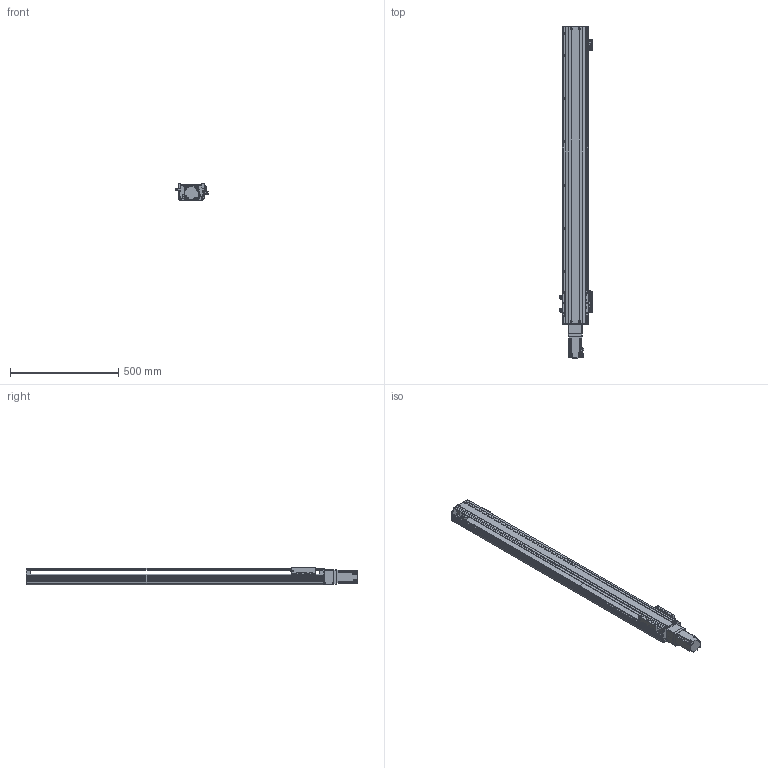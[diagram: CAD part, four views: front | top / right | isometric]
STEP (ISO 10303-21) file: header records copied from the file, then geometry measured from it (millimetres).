
FILE_DESCRIPTION(/* description */ ('MANUFACTURE'),/* implementation_level */ '2;1');
FILE_NAME(/* name */ '\\192.168.0.160\disk1\HAN SHIN Master\B-설계부문\C-표준\B-2024년\BC02-표준도면\+로봇 개선표준도면\표준 승인도 작업 폴더\3D\HG120\HG120직렬\HG120-S40-N-1200-R10.stp',/* time_stamp */ '2024-02-14T15:00:04+09:00',/* author */ ('User'),/* organization */ (''),/* preprocessor_version */ 'ST-DEVELOPER v18.1',/* originating_system */ 'Autodesk Inventor 2022',/* authorisation */ 'LIP');
FILE_SCHEMA (('AUTOMOTIVE_DESIGN { 1 0 10303 214 3 1 1 }'));
Products named in the file (20): HG120-S40-N-0500-R10 - 간소화; HR120 S BASE; HR(HG) 120,130 FRONT BLOCK; HR(HG) 120,130 FRONT BLOCK_1; HR120 FRONT COVER; SDWA-31C; HG5UPCOV003; HR120 SENSOR DOG; hsr_ftht_A-M6F_grease_nipple_joint; NIPPLE CAP(신규); HG120 TABLE-N; LMKE1520 NUT; HR120 STOPPER; HG120 S MOTOR PLATE-B; HG120 S MOTOR PLATE-M; HR120 FRONT COVER_1; COUPLING COVER; hg-kr43_; SENSOR BRK(EE-SX674A); EE_SX674A
Assembly tree (32 placements, depth 2):
  HG120-S40-N-0500-R10 - 간소화
    HR120 S BASE
    HR(HG) 120,130 FRONT BLOCK
    HR(HG) 120,130 FRONT BLOCK_1
    HR120 FRONT COVER
    SDWA-31C
    SENSOR BRK(EE-SX674A)  x3
    HG5UPCOV003
    HR120 SENSOR DOG
    hsr_ftht_A-M6F_grease_nipple_joint  x5
    NIPPLE CAP(신규)  x5
    HG120 TABLE-N
    LMKE1520 NUT
    EE_SX674A  x3
    HR120 STOPPER  x2
    HG120 S MOTOR PLATE-B
    HG120 S MOTOR PLATE-M
    HR120 FRONT COVER_1
    COUPLING COVER
    hg-kr43_
Bounding box: 150.96 x 1533.3 x 80 mm (x, y, z)
Volume: 3648961.9 mm3; surface area: 1445130.2 mm2
Topology: 32 solids, 64 shells, 2472 faces, 6788 edges, 4428 vertices
Faces by surface type: plane 1127, cylinder 891, cone 296, torus 98, sphere 40, bspline 20
Full cylindrical faces by diameter (mm): 2.459 x26, 2.5 x20, 3 x34, 3.1 x2, 3.242 x44, 3.3 x4, 3.5 x6, 4.134 x43, 4.5 x56, 4.917 x7, 5 x51, 5.5 x49, 5.6 x5, 5.8 x4, 5.9 x10, 6 x9, 6.45 x10, 6.5 x10, 6.6 x2, 7 x4, 7.5 x16, 8 x4, 9 x6, 9.5 x27, 14 x1, 14.5 x2, 14.7 x1, 15 x2, 17 x1, 22 x1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
Entity records: 66342 total; most frequent: CARTESIAN_POINT 14344, DIRECTION 10861, ORIENTED_EDGE 10378, EDGE_CURVE 5189, AXIS2_PLACEMENT_3D 4028, VERTEX_POINT 3448, LINE 2805, VECTOR 2805
